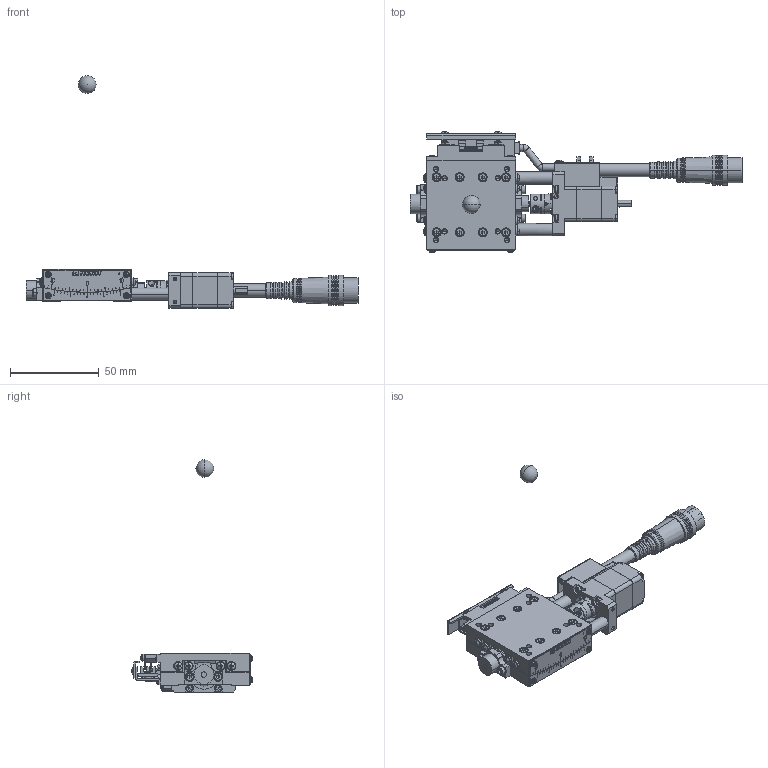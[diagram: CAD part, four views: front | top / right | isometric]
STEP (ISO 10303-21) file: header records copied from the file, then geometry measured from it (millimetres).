
FILE_DESCRIPTION (( 'STEP AP203' ), '1' );
FILE_NAME ('SA05A-R2G01.STEP', '2019-02-25T01:12:44', ( '' ), ( '' ), 'SwSTEP 2.0', 'SolidWorks 2018', '' );
FILE_SCHEMA (( 'CONFIG_CONTROL_DESIGN' ));
Length unit declared in the file: millimetre
Products named in the file (7): table; SA05A-R2G01; base-Part-1; rotation center; base-Part-2; base; base-Part-3
Assembly tree (6 placements, depth 3):
  SA05A-R2G01
    base
      base-Part-1
      base-Part-2
      base-Part-3
    rotation center
    table
Bounding box: 187 x 67.96 x 131 mm (x, y, z)
Volume: 76225.4 mm3; surface area: 39144.6 mm2
Topology: 5 solids, 5 shells, 2491 faces, 6274 edges, 3893 vertices
Faces by surface type: plane 1561, cylinder 546, cone 194, torus 134, sphere 50, bspline 6
Entity records: 76578 total; most frequent: CARTESIAN_POINT 15295, DIRECTION 13068, ORIENTED_EDGE 12358, EDGE_CURVE 6179, AXIS2_PLACEMENT_3D 4608, VERTEX_POINT 3886, VECTOR 3852, LINE 3852
